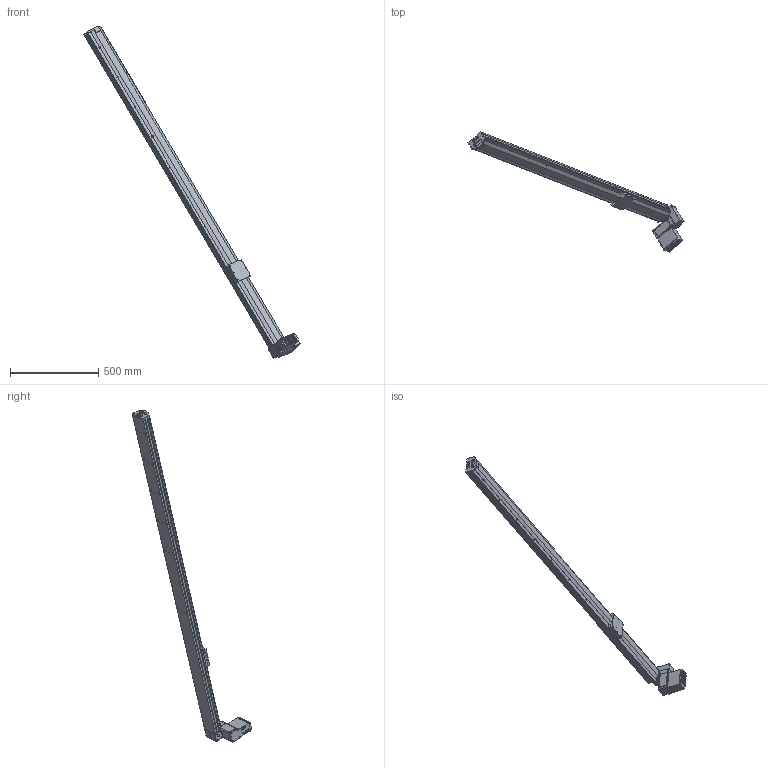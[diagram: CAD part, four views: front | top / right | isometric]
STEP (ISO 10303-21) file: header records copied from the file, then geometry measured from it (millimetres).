
FILE_DESCRIPTION (( 'STEP AP203' ), '1' );
FILE_NAME ('S10 CBH RT S2100.STEP', '2012-10-01T11:53:58', ( '' ), ( '' ), 'SwSTEP 2.0', 'SolidWorks 2010', '' );
FILE_SCHEMA (( 'CONFIG_CONTROL_DESIGN' ));
Length unit declared in the file: millimetre
Products named in the file (9): MOTEUR GMI 61 ; palette tbh; axe 2100; embout; S10 CBH RT S2100; moteur M3; Plaque racord_; moteur M3_1; plaque de bout
Assembly tree (7 placements, depth 3):
  S10 CBH RT S2100
    palette tbh
    plaque de bout
      moteur M3_1
      Plaque racord_
    embout
    MOTEUR GMI 61 
    axe 2100
  moteur M3
Bounding box: 1223.28 x 677.79 x 1879.25 mm (x, y, z)
Volume: 11873690.7 mm3; surface area: 1152170 mm2
Topology: 5 solids, 18 shells, 779 faces, 2030 edges, 1276 vertices
Faces by surface type: plane 381, cylinder 289, cone 74, torus 23, bspline 8, sphere 4
Entity records: 27009 total; most frequent: CARTESIAN_POINT 6935, DIRECTION 4057, ORIENTED_EDGE 3812, EDGE_CURVE 1956, AXIS2_PLACEMENT_3D 1402, VERTEX_POINT 1276, VECTOR 1253, LINE 1253
